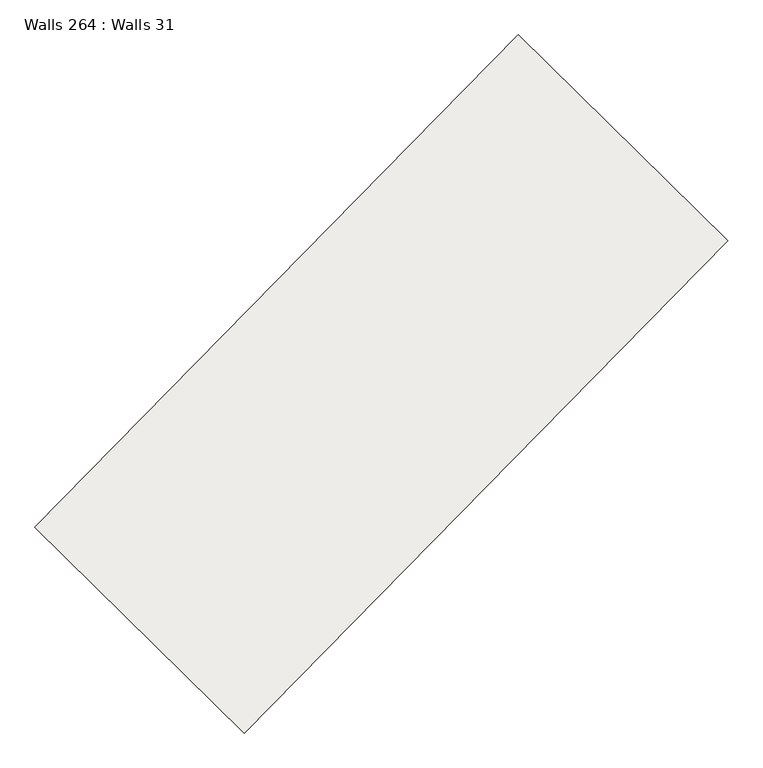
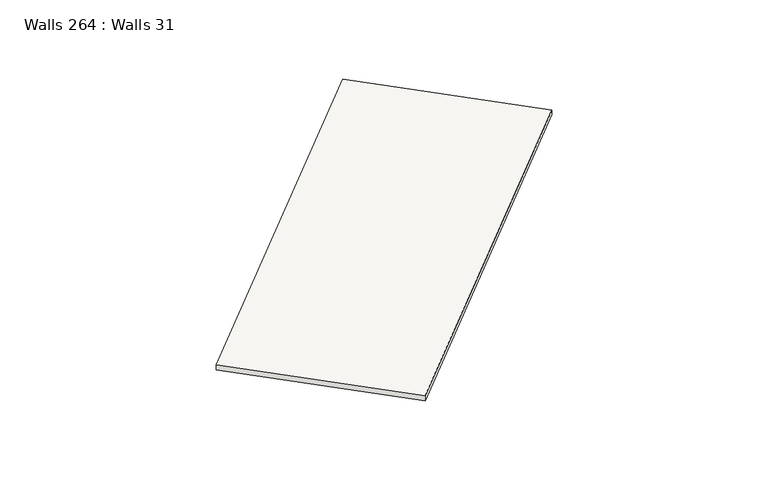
"""IFC4 building model written with IfcOpenShell, lengths in millimetres: slab geometry, Walls 264 : Walls 31."""

from ifc_helpers import new_model, si_unit, frame, origin, place, context, project, spatial, polyline, outline, extrude, source, transform, mapped, element, save


def walls_264_walls_31_3e07eacd(model_context):
    return source(origin(), model_context, "Body", "SweptSolid", [
        extrude(outline(polyline([(-50.0, 0.0), (50.0, 0.0), (-40.0, -8700.0000004), (-140.0, -8700.0000004), (-50.0, 0.0)])), frame((-194946.6671481, -357997.4920257, 635210.0), z_axis=(-0.7136987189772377, 0.7004528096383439, 0.0), x_axis=(0.0, 0.0, 1.0)), (0.0, 0.0, 1.0), 3700.0),
    ])


if __name__ == "__main__":
    model = new_model("IFC4")
    model_context = context("Model", 3, world=origin())
    ifc_project = project(units=[si_unit("LENGTHUNIT", "METRE", prefix="MILLI")], contexts=[model_context])
    site = spatial("IfcSite", under=ifc_project)
    building = spatial("IfcBuilding", under=site)
    placement = place(None, origin())
    walls_264_walls_31_shape = walls_264_walls_31_3e07eacd(model_context)
    element("IfcSlab", 1, ObjectType="Walls 264 : Walls 31", at=placement, inside=building, context=model_context, shape_type="MappedRepresentation", body=[
        mapped(walls_264_walls_31_shape, transform((0.0, 0.0, 0.0), x_axis=(1.0, 0.0, 0.0), y_axis=(0.0, 1.0, 0.0), z_axis=(0.0, 0.0, 1.0))),
    ])
    save(model, "model.ifc")
